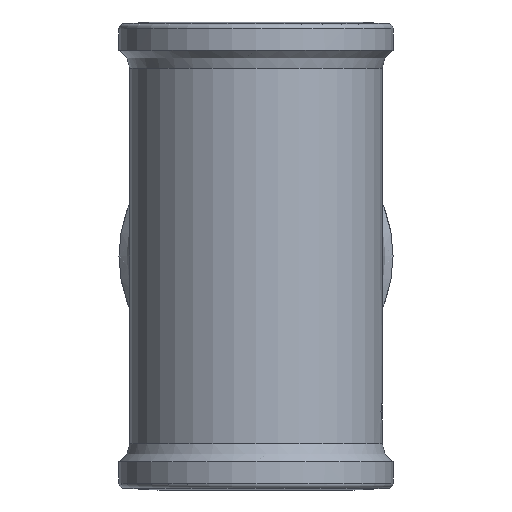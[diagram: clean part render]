
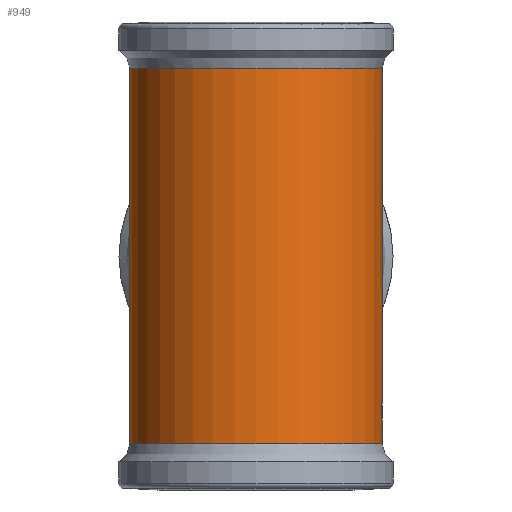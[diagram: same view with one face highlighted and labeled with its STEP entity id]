
A CAD part, left-side view. The second image highlights one B-rep face of the part: STEP entity #949.
In plain terms, the highlighted cylindrical face has radius 24.25 mm (diameter 48.5 mm), a partial arc.
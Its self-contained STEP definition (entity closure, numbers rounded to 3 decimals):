
#212=CARTESIAN_POINT('',(-3.55,-23.989,-29.886));
#213=VERTEX_POINT('',#212);
#214=CARTESIAN_POINT('',(-0.401,-24.247,-26.387));
#215=VERTEX_POINT('',#214);
#216=CARTESIAN_POINT('',(0.0,0.0,-25.942));
#217=DIRECTION('',(-0.743,0.0,0.669));
#218=DIRECTION('',(-0.669,0.0,-0.743));
#219=AXIS2_PLACEMENT_3D('',#216,#217,#218);
#220=ELLIPSE('',#219,36.25,24.25);
#221=EDGE_CURVE('',#213,#215,#220,.T.);
#244=CARTESIAN_POINT('',(2.748,-24.094,-29.886));
#245=VERTEX_POINT('',#244);
#246=CARTESIAN_POINT('',(0.0,0.0,-26.833));
#247=DIRECTION('',(0.743,0.0,0.669));
#248=DIRECTION('',(-0.669,0.0,0.743));
#249=AXIS2_PLACEMENT_3D('',#246,#247,#248);
#250=ELLIPSE('',#249,36.25,24.25);
#251=EDGE_CURVE('',#215,#245,#250,.T.);
#269=CARTESIAN_POINT('',(-0.401,-24.247,-33.385));
#270=VERTEX_POINT('',#269);
#271=CARTESIAN_POINT('',(0.0,0.0,-33.83));
#272=DIRECTION('',(-0.743,0.0,-0.669));
#273=DIRECTION('',(-0.669,0.0,0.743));
#274=AXIS2_PLACEMENT_3D('',#271,#272,#273);
#275=ELLIPSE('',#274,36.25,24.25);
#276=EDGE_CURVE('',#270,#213,#275,.T.);
#294=CARTESIAN_POINT('',(0.0,0.0,-32.939));
#295=DIRECTION('',(0.743,0.0,-0.669));
#296=DIRECTION('',(-0.669,0.0,-0.743));
#297=AXIS2_PLACEMENT_3D('',#294,#295,#296);
#298=ELLIPSE('',#297,36.25,24.25);
#299=EDGE_CURVE('',#245,#270,#298,.T.);
#850=CARTESIAN_POINT('',(0.0,0.0,0.0));
#851=DIRECTION('',(0.0,0.0,1.0));
#852=DIRECTION('',(-1.0,0.0,0.0));
#853=AXIS2_PLACEMENT_3D('',#850,#851,#852);
#854=CYLINDRICAL_SURFACE('',#853,24.25);
#855=CARTESIAN_POINT('',(23.829,4.5,36.08));
#856=VERTEX_POINT('',#855);
#857=CARTESIAN_POINT('',(23.829,-4.5,36.08));
#858=VERTEX_POINT('',#857);
#859=CARTESIAN_POINT('',(0.0,0.0,36.08));
#860=DIRECTION('',(0.0,0.0,1.0));
#861=DIRECTION('',(1.0,0.0,0.0));
#862=AXIS2_PLACEMENT_3D('',#859,#860,#861);
#863=CIRCLE('',#862,24.25);
#864=EDGE_CURVE('',#856,#858,#863,.T.);
#865=ORIENTED_EDGE('',*,*,#864,.F.);
#866=CARTESIAN_POINT('',(23.829,4.5,30.707));
#867=VERTEX_POINT('',#866);
#868=CARTESIAN_POINT('',(23.829,4.5,36.08));
#869=DIRECTION('',(0.0,0.0,-1.0));
#870=VECTOR('',#869,5.373);
#871=LINE('',#868,#870);
#872=EDGE_CURVE('',#856,#867,#871,.T.);
#873=ORIENTED_EDGE('',*,*,#872,.T.);
#874=CARTESIAN_POINT('',(0.0,24.25,0.0));
#875=VERTEX_POINT('',#874);
#876=CARTESIAN_POINT('',(0.0,0.0,0.0));
#877=DIRECTION('',(0.79,0.0,-0.613));
#878=DIRECTION('',(0.613,0.0,0.79));
#879=AXIS2_PLACEMENT_3D('',#876,#877,#878);
#880=ELLIPSE('',#879,39.555,24.25);
#881=EDGE_CURVE('',#875,#867,#880,.T.);
#882=ORIENTED_EDGE('',*,*,#881,.F.);
#883=CARTESIAN_POINT('',(23.829,4.5,-30.707));
#884=VERTEX_POINT('',#883);
#885=CARTESIAN_POINT('',(0.0,0.0,0.0));
#886=DIRECTION('',(0.79,0.0,0.613));
#887=DIRECTION('',(0.613,0.0,-0.79));
#888=AXIS2_PLACEMENT_3D('',#885,#886,#887);
#889=ELLIPSE('',#888,39.555,24.25);
#890=EDGE_CURVE('',#884,#875,#889,.T.);
#891=ORIENTED_EDGE('',*,*,#890,.F.);
#892=CARTESIAN_POINT('',(23.829,4.5,-36.08));
#893=VERTEX_POINT('',#892);
#894=CARTESIAN_POINT('',(23.829,4.5,-30.707));
#895=DIRECTION('',(0.0,0.0,-1.0));
#896=VECTOR('',#895,5.373);
#897=LINE('',#894,#896);
#898=EDGE_CURVE('',#884,#893,#897,.T.);
#899=ORIENTED_EDGE('',*,*,#898,.T.);
#900=CARTESIAN_POINT('',(23.829,-4.5,-36.08));
#901=VERTEX_POINT('',#900);
#902=CARTESIAN_POINT('',(0.0,0.0,-36.08));
#903=DIRECTION('',(0.0,0.0,-1.0));
#904=DIRECTION('',(-1.0,0.0,0.0));
#905=AXIS2_PLACEMENT_3D('',#902,#903,#904);
#906=CIRCLE('',#905,24.25);
#907=EDGE_CURVE('',#901,#893,#906,.T.);
#908=ORIENTED_EDGE('',*,*,#907,.F.);
#909=CARTESIAN_POINT('',(23.829,-4.5,-30.707));
#910=VERTEX_POINT('',#909);
#911=CARTESIAN_POINT('',(23.829,-4.5,-36.08));
#912=DIRECTION('',(0.0,0.0,1.0));
#913=VECTOR('',#912,5.373);
#914=LINE('',#911,#913);
#915=EDGE_CURVE('',#901,#910,#914,.T.);
#916=ORIENTED_EDGE('',*,*,#915,.T.);
#917=CARTESIAN_POINT('',(0.0,-24.25,0.0));
#918=VERTEX_POINT('',#917);
#919=CARTESIAN_POINT('',(0.0,0.0,0.0));
#920=DIRECTION('',(0.79,0.0,0.613));
#921=DIRECTION('',(0.613,0.0,-0.79));
#922=AXIS2_PLACEMENT_3D('',#919,#920,#921);
#923=ELLIPSE('',#922,39.555,24.25);
#924=EDGE_CURVE('',#918,#910,#923,.T.);
#925=ORIENTED_EDGE('',*,*,#924,.F.);
#926=CARTESIAN_POINT('',(23.829,-4.5,30.707));
#927=VERTEX_POINT('',#926);
#928=CARTESIAN_POINT('',(0.0,0.0,0.0));
#929=DIRECTION('',(0.79,0.0,-0.613));
#930=DIRECTION('',(0.613,0.0,0.79));
#931=AXIS2_PLACEMENT_3D('',#928,#929,#930);
#932=ELLIPSE('',#931,39.555,24.25);
#933=EDGE_CURVE('',#927,#918,#932,.T.);
#934=ORIENTED_EDGE('',*,*,#933,.F.);
#935=CARTESIAN_POINT('',(23.829,-4.5,30.707));
#936=DIRECTION('',(0.0,0.0,1.0));
#937=VECTOR('',#936,5.373);
#938=LINE('',#935,#937);
#939=EDGE_CURVE('',#927,#858,#938,.T.);
#940=ORIENTED_EDGE('',*,*,#939,.T.);
#941=EDGE_LOOP('',(#865,#873,#882,#891,#899,#908,#916,#925,#934,#940));
#942=FACE_OUTER_BOUND('',#941,.T.);
#943=ORIENTED_EDGE('',*,*,#221,.T.);
#944=ORIENTED_EDGE('',*,*,#251,.T.);
#945=ORIENTED_EDGE('',*,*,#299,.T.);
#946=ORIENTED_EDGE('',*,*,#276,.T.);
#947=EDGE_LOOP('',(#943,#944,#945,#946));
#948=FACE_BOUND('',#947,.T.);
#949=ADVANCED_FACE('',(#942,#948),#854,.T.);
